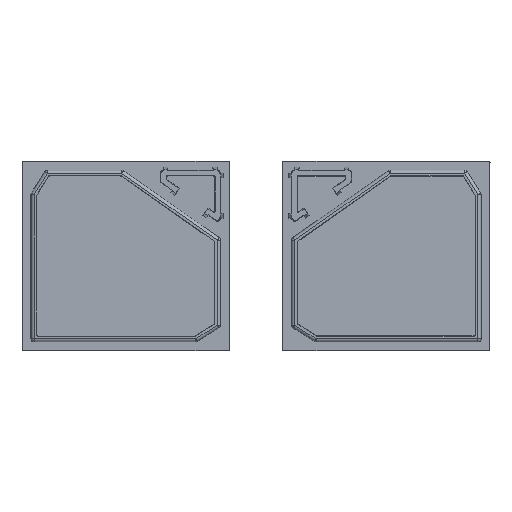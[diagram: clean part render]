
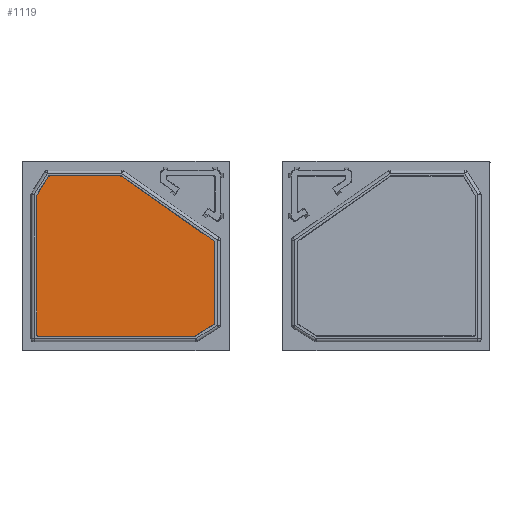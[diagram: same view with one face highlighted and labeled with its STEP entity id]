
A CAD part, front view. The second image highlights one B-rep face of the part: STEP entity #1119.
In plain terms, the highlighted planar face has unit normal (0, -1, 0).
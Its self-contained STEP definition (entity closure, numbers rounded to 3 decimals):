
#1004=ELLIPSE('',#4766,0.2,0.2);
#1005=ELLIPSE('',#4769,0.2,0.2);
#1006=ELLIPSE('',#4772,0.2,0.2);
#1007=ELLIPSE('',#4775,0.2,0.2);
#1008=ELLIPSE('',#4776,0.2,0.2);
#1009=ELLIPSE('',#4777,0.2,0.2);
#1010=ELLIPSE('',#4778,0.2,0.2);
#1119=ADVANCED_FACE('',(#1455),#1301,.T.);
#1301=PLANE('',#4779);
#1455=FACE_OUTER_BOUND('',#1674,.T.);
#1674=EDGE_LOOP('',(#2128,#2129,#2130,#2131,#2132,#2133,#2134,#2135,#2136,
#2137,#2138,#2139,#2140,#2141));
#2128=ORIENTED_EDGE('',*,*,#3479,.F.);
#2129=ORIENTED_EDGE('',*,*,#3480,.T.);
#2130=ORIENTED_EDGE('',*,*,#3481,.F.);
#2131=ORIENTED_EDGE('',*,*,#3482,.T.);
#2132=ORIENTED_EDGE('',*,*,#3483,.F.);
#2133=ORIENTED_EDGE('',*,*,#3478,.T.);
#2134=ORIENTED_EDGE('',*,*,#3475,.F.);
#2135=ORIENTED_EDGE('',*,*,#3473,.T.);
#2136=ORIENTED_EDGE('',*,*,#3471,.F.);
#2137=ORIENTED_EDGE('',*,*,#3469,.T.);
#2138=ORIENTED_EDGE('',*,*,#3467,.F.);
#2139=ORIENTED_EDGE('',*,*,#3465,.T.);
#2140=ORIENTED_EDGE('',*,*,#3484,.F.);
#2141=ORIENTED_EDGE('',*,*,#3485,.T.);
#3068=VERTEX_POINT('',#6887);
#3069=VERTEX_POINT('',#6889);
#3070=VERTEX_POINT('',#6893);
#3071=VERTEX_POINT('',#6897);
#3072=VERTEX_POINT('',#6901);
#3073=VERTEX_POINT('',#6905);
#3074=VERTEX_POINT('',#6909);
#3075=VERTEX_POINT('',#6913);
#3076=VERTEX_POINT('',#6917);
#3077=VERTEX_POINT('',#6918);
#3078=VERTEX_POINT('',#6920);
#3079=VERTEX_POINT('',#6922);
#3080=VERTEX_POINT('',#6924);
#3081=VERTEX_POINT('',#6927);
#3465=EDGE_CURVE('',#3069,#3068,#3963,.T.);
#3467=EDGE_CURVE('',#3069,#3070,#1004,.T.);
#3469=EDGE_CURVE('',#3071,#3070,#3966,.T.);
#3471=EDGE_CURVE('',#3071,#3072,#1005,.T.);
#3473=EDGE_CURVE('',#3073,#3072,#3969,.T.);
#3475=EDGE_CURVE('',#3073,#3074,#1006,.T.);
#3478=EDGE_CURVE('',#3075,#3074,#3973,.T.);
#3479=EDGE_CURVE('',#3076,#3077,#1007,.T.);
#3480=EDGE_CURVE('',#3076,#3078,#3974,.T.);
#3481=EDGE_CURVE('',#3079,#3078,#1008,.T.);
#3482=EDGE_CURVE('',#3079,#3080,#3975,.T.);
#3483=EDGE_CURVE('',#3075,#3080,#1009,.T.);
#3484=EDGE_CURVE('',#3081,#3068,#1010,.T.);
#3485=EDGE_CURVE('',#3081,#3077,#3976,.T.);
#3963=LINE('',#6888,#4367);
#3966=LINE('',#6896,#4370);
#3969=LINE('',#6904,#4373);
#3973=LINE('',#6914,#4377);
#3974=LINE('',#6919,#4378);
#3975=LINE('',#6923,#4379);
#3976=LINE('',#6928,#4380);
#4367=VECTOR('',#5298,1.);
#4370=VECTOR('',#5307,1.);
#4373=VECTOR('',#5316,1.);
#4377=VECTOR('',#5326,1.);
#4378=VECTOR('',#5331,1.);
#4379=VECTOR('',#5334,1.);
#4380=VECTOR('',#5339,1.);
#4766=AXIS2_PLACEMENT_3D('',#6892,#5302,#5303);
#4769=AXIS2_PLACEMENT_3D('',#6900,#5311,#5312);
#4772=AXIS2_PLACEMENT_3D('',#6908,#5320,#5321);
#4775=AXIS2_PLACEMENT_3D('',#6916,#5329,#5330);
#4776=AXIS2_PLACEMENT_3D('',#6921,#5332,#5333);
#4777=AXIS2_PLACEMENT_3D('',#6925,#5335,#5336);
#4778=AXIS2_PLACEMENT_3D('',#6926,#5337,#5338);
#4779=AXIS2_PLACEMENT_3D('',#6929,#5340,#5341);
#5298=DIRECTION('',(-1.,0.,0.));
#5302=DIRECTION('',(0.,1.,0.));
#5303=DIRECTION('',(0.301,0.,0.954));
#5307=DIRECTION('',(-0.819,0.,0.574));
#5311=DIRECTION('',(0.,1.,0.));
#5312=DIRECTION('',(0.887,0.,0.462));
#5316=DIRECTION('',(0.,0.,1.));
#5320=DIRECTION('',(0.,1.,0.));
#5321=DIRECTION('',(0.875,0.,-0.485));
#5326=DIRECTION('',(0.848,0.,0.53));
#5329=DIRECTION('',(0.,1.,0.));
#5330=DIRECTION('',(-0.961,0.,0.276));
#5331=DIRECTION('',(0.,0.,-1.));
#5332=DIRECTION('',(0.,1.,0.));
#5333=DIRECTION('',(-0.707,0.,-0.707));
#5334=DIRECTION('',(1.,0.,0.));
#5335=DIRECTION('',(0.,1.,0.));
#5336=DIRECTION('',(0.276,0.,-0.961));
#5337=DIRECTION('',(0.,1.,0.));
#5338=DIRECTION('',(-0.485,0.,0.875));
#5339=DIRECTION('',(-0.53,0.,-0.848));
#5340=DIRECTION('',(0.,-1.,0.));
#5341=DIRECTION('',(0.,0.,1.));
#6887=CARTESIAN_POINT('',(-12.842,0.,13.513));
#6888=CARTESIAN_POINT('',(-0.874,0.,13.513));
#6889=CARTESIAN_POINT('',(-0.874,0.,13.513));
#6892=CARTESIAN_POINT('',(-0.874,0.,13.313));
#6893=CARTESIAN_POINT('',(-0.76,0.,13.477));
#6896=CARTESIAN_POINT('',(14.928,0.,2.493));
#6897=CARTESIAN_POINT('',(14.928,0.,2.493));
#6900=CARTESIAN_POINT('',(14.813,0.,2.329));
#6901=CARTESIAN_POINT('',(15.013,0.,2.329));
#6904=CARTESIAN_POINT('',(15.013,0.,-11.342));
#6905=CARTESIAN_POINT('',(15.013,0.,-11.342));
#6908=CARTESIAN_POINT('',(14.813,0.,-11.342));
#6909=CARTESIAN_POINT('',(14.919,0.,-11.512));
#6913=CARTESIAN_POINT('',(11.766,0.,-13.483));
#6914=CARTESIAN_POINT('',(11.766,0.,-13.483));
#6916=CARTESIAN_POINT('',(-14.813,0.,10.16));
#6917=CARTESIAN_POINT('',(-15.013,0.,10.16));
#6918=CARTESIAN_POINT('',(-14.983,0.,10.266));
#6919=CARTESIAN_POINT('',(-15.013,0.,10.16));
#6920=CARTESIAN_POINT('',(-15.013,0.,-13.313));
#6921=CARTESIAN_POINT('',(-14.813,0.,-13.313));
#6922=CARTESIAN_POINT('',(-14.813,0.,-13.513));
#6923=CARTESIAN_POINT('',(-14.813,0.,-13.513));
#6924=CARTESIAN_POINT('',(11.66,0.,-13.513));
#6925=CARTESIAN_POINT('',(11.66,0.,-13.313));
#6926=CARTESIAN_POINT('',(-12.842,0.,13.313));
#6927=CARTESIAN_POINT('',(-13.012,0.,13.419));
#6928=CARTESIAN_POINT('',(-13.012,0.,13.419));
#6929=CARTESIAN_POINT('',(0.,0.,0.));
